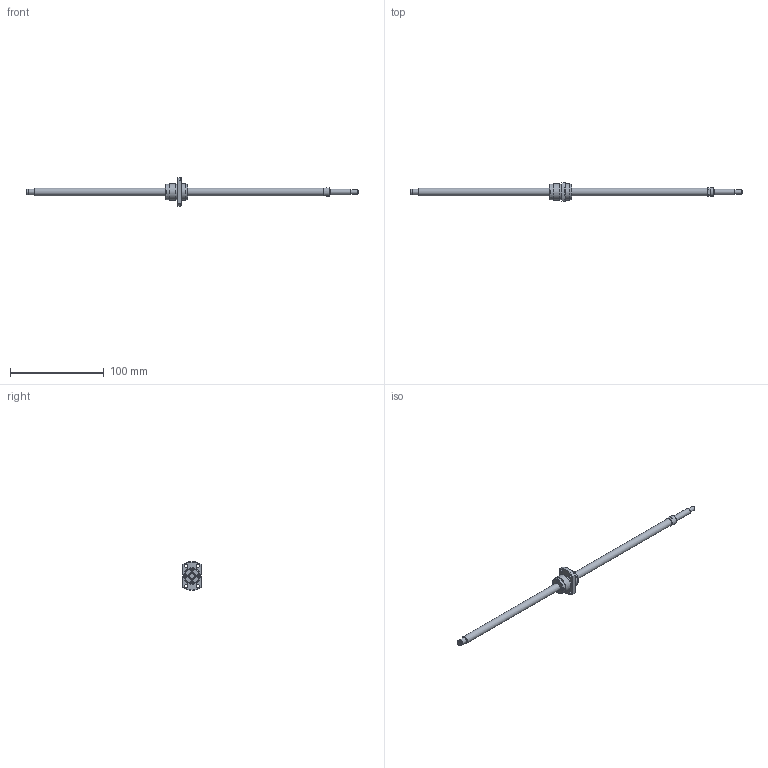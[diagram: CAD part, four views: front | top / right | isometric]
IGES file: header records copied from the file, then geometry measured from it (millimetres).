
Start section: Data from Parasolid IGES Translator 26.0.171, Copyright(c) 2006 Siemens PLM Software. All Rights Reserved.
Global section: file name: BNK0810-3GT+355LC5Y(164).igs; native system: By Siemens PLM Incorporated; preprocessor: XPlus GENERIC/IGES 26.0.171; author: Noname; organization: Noname; date: 20240709.085647; units: millimetre
Bounding box: 355 x 20 x 31 mm (x, y, z)
Surface area: 12163.1 mm2 (no closed solid volume)
Topology: 0 solids, 0 shells, 116 faces, 542 edges, 495 vertices
Faces by surface type: extrusion 66, revolution 50
